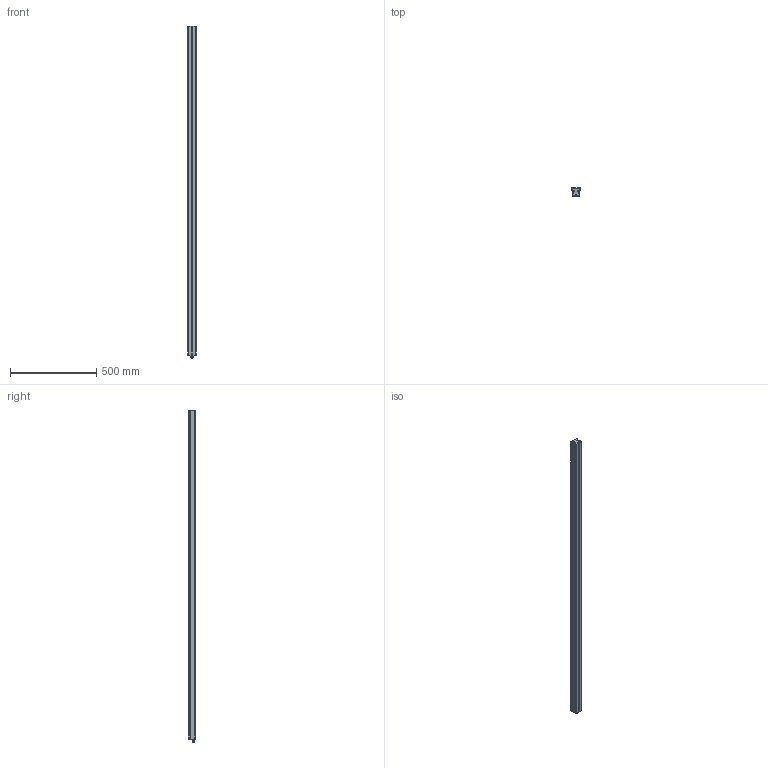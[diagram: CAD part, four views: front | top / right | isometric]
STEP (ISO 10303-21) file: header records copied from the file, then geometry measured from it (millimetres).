
FILE_DESCRIPTION (( 'STEP AP214' ), '1' );
FILE_NAME ('EBAR-HPS-1875-xxx-UN_CLIENT.STEP', '2025-11-18T13:06:25', ( '' ), ( '' ), 'SwSTEP 2.0', 'SolidWorks 2025', '' );
FILE_SCHEMA (( 'AUTOMOTIVE_DESIGN' ));
Length unit declared in the file: millimetre
Products named in the file (3): EBAR-HPS-1875-xxx-UN_CLIENT; EBAR-HPS-xxx-xxx-xx_CLIENT - T-Power_1875; M4 T-Slot Nut
Assembly tree (37 placements, depth 2):
  EBAR-HPS-1875-xxx-UN_CLIENT
    EBAR-HPS-xxx-xxx-xx_CLIENT - T-Power_1875
    M4 T-Slot Nut  x36
Bounding box: 47.63 x 45 x 1920.06 mm (x, y, z)
Volume: 3238139.8 mm3; surface area: 464056 mm2
Topology: 37 solids, 37 shells, 1424 faces, 3688 edges, 2428 vertices
Faces by surface type: plane 799, cylinder 371, bspline 140, torus 62, sphere 40, cone 12
Entity records: 29649 total; most frequent: CARTESIAN_POINT 10335, ORIENTED_EDGE 4138, DIRECTION 3640, EDGE_CURVE 2069, VERTEX_POINT 1343, AXIS2_PLACEMENT_3D 1252, VECTOR 1136, LINE 1136
